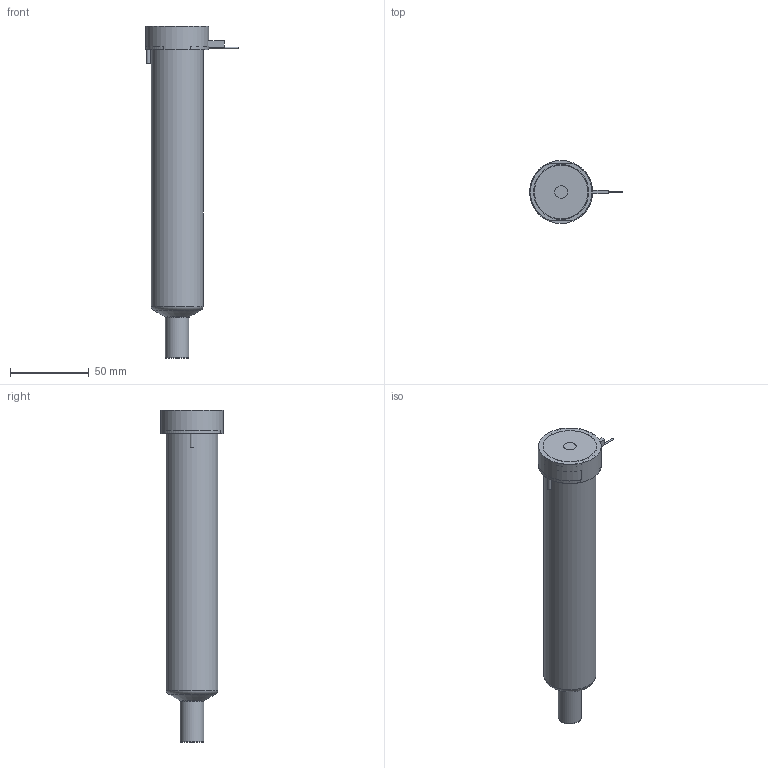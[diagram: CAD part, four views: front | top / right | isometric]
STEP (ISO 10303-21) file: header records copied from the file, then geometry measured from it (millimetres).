
FILE_DESCRIPTION(/* description */ (''),/* implementation_level */ '2;1');
FILE_NAME(/* name */ 'BXYCN19175P4F_200C_a',/* time_stamp */ '2016-02-18T17:15:49+13:00',/* author */ (''),/* organization */ (''),/* preprocessor_version */ 'ST-DEVELOPER v9',/* originating_system */ 'UGS - NX 4.0',/* authorisation */ '');
FILE_SCHEMA (('CONFIG_CONTROL_DESIGN'));
Length unit declared in the file: millimetre
Products named in the file (1): matt5E57pzaq
Bounding box: 58.85 x 40 x 210.74 mm (x, y, z)
Volume: 292439.5 mm3; surface area: 44842 mm2
Topology: 2 solids, 2 shells, 66 faces, 148 edges, 96 vertices
Faces by surface type: plane 31, cylinder 21, torus 7, cone 5, bspline 1, sphere 1
Full cylindrical faces by diameter (mm): 1 x2, 2.5 x2, 7 x1, 8 x1, 14.61 x1, 14.995 x2, 18.3 x1, 28.6 x1, 33 x1, 40 x1
Entity records: 1929 total; most frequent: CARTESIAN_POINT 483, DIRECTION 297, ORIENTED_EDGE 232, AXIS2_PLACEMENT_3D 127, EDGE_CURVE 116, EDGE_LOOP 102, VERTEX_POINT 88, ADVANCED_FACE 66
